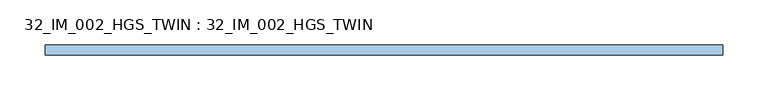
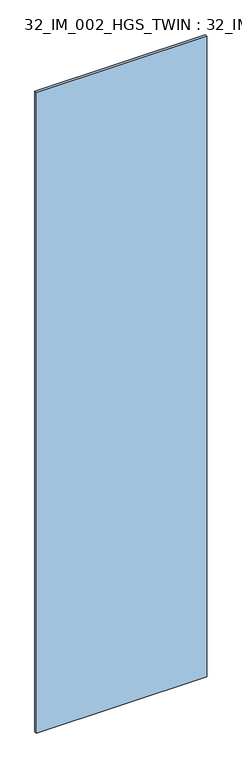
"""IFC4 building model written with IfcOpenShell, lengths in millimetres: window geometry, 32_IM_002_HGS_TWIN : 32_IM_002_HGS_TWIN."""

from ifc_helpers import new_model, si_unit, origin, origin_with_axes, place, context, project, spatial, polyline, outline, extrude, source, transform, mapped, element, save


def window_32_im_002_hgs_twin_32_im_002_hgs_twin_41e00810(model_context):
    return source(origin(), model_context, "Body", "SweptSolid", [
        extrude(outline(polyline([(372.0, -5.4), (-372.0, -5.4), (-372.0, 5.4), (372.0, 5.4), (372.0, -5.4)])), origin_with_axes(), (0.0, 0.0, 1.0), 2956.0),
    ])


if __name__ == "__main__":
    model = new_model("IFC4")
    model_context = context("Model", 3, world=origin())
    ifc_project = project(units=[si_unit("LENGTHUNIT", "METRE", prefix="MILLI")], contexts=[model_context])
    site = spatial("IfcSite", under=ifc_project)
    building = spatial("IfcBuilding", under=site)
    placement = place(None, origin())
    window_32_im_002_hgs_twin_32_im_002_hgs_twin_shape = window_32_im_002_hgs_twin_32_im_002_hgs_twin_41e00810(model_context)
    element("IfcWindow", 1, ObjectType="32_IM_002_HGS_TWIN : 32_IM_002_HGS_TWIN", at=placement, inside=building, context=model_context, shape_type="MappedRepresentation", body=[
        mapped(window_32_im_002_hgs_twin_32_im_002_hgs_twin_shape, transform((0.0, 0.0, 0.0), x_axis=(1.0, 0.0, 0.0), y_axis=(0.0, 1.0, 0.0), z_axis=(0.0, 0.0, 1.0))),
    ])
    save(model, "model.ifc")
